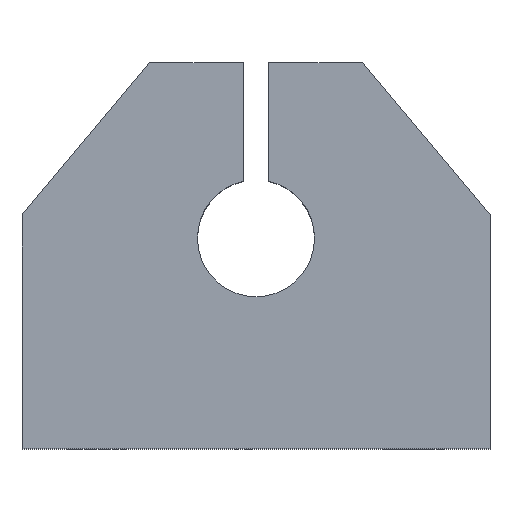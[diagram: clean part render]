
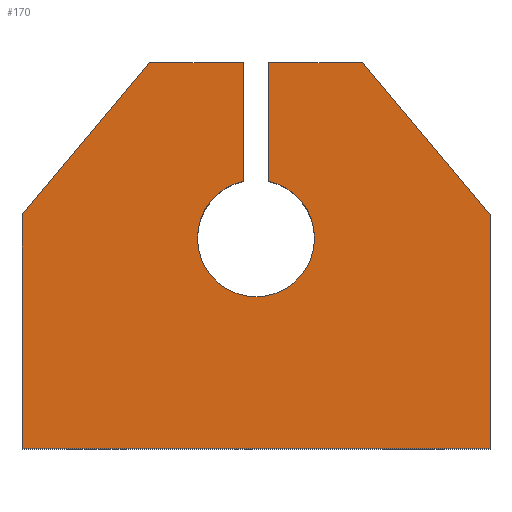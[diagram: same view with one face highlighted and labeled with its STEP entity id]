
A CAD part, top view. The second image highlights one B-rep face of the part: STEP entity #170.
In plain terms, the highlighted planar face has unit normal (0, 0, 1).
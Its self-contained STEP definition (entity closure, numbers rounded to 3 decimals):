
#7 = LINE ( 'NONE', #990, #773 ) ;
#24 = ORIENTED_EDGE ( 'NONE', *, *, #1234, .T. ) ;
#34 = VECTOR ( 'NONE', #64, 1000. ) ;
#38 = EDGE_CURVE ( 'NONE', #187, #108, #533, .T. ) ;
#49 = DIRECTION ( 'NONE',  ( 0., 0., 1. ) ) ;
#57 = DIRECTION ( 'NONE',  ( 0., 1., 0. ) ) ;
#64 = DIRECTION ( 'NONE',  ( 0., -1., 0. ) ) ;
#65 = CIRCLE ( 'NONE', #687, 5. ) ;
#73 = VERTEX_POINT ( 'NONE', #830 ) ;
#88 = ORIENTED_EDGE ( 'NONE', *, *, #805, .T. ) ;
#108 = VERTEX_POINT ( 'NONE', #343 ) ;
#111 = LINE ( 'NONE', #399, #706 ) ;
#147 = DIRECTION ( 'NONE',  ( -1., 0., 0. ) ) ;
#170 = ADVANCED_FACE ( 'NONE', ( #910 ), #1206, .T. ) ;
#187 = VERTEX_POINT ( 'NONE', #315 ) ;
#201 = VECTOR ( 'NONE', #390, 1000. ) ;
#213 = LINE ( 'NONE', #397, #1082 ) ;
#220 = ORIENTED_EDGE ( 'NONE', *, *, #860, .F. ) ;
#234 = EDGE_LOOP ( 'NONE', ( #24, #88, #707, #962, #220, #476, #740, #589, #377, #373, #1268, #334 ) ) ;
#255 = EDGE_CURVE ( 'NONE', #1122, #528, #671, .T. ) ;
#263 = VERTEX_POINT ( 'NONE', #1010 ) ;
#290 = LINE ( 'NONE', #1155, #201 ) ;
#301 = AXIS2_PLACEMENT_3D ( 'NONE', #1015, #1031, #1212 ) ;
#315 = CARTESIAN_POINT ( 'NONE',  ( 20., -16.5, 9. ) ) ;
#323 = CARTESIAN_POINT ( 'NONE',  ( 0., 1.5, 9. ) ) ;
#329 = VERTEX_POINT ( 'NONE', #503 ) ;
#334 = ORIENTED_EDGE ( 'NONE', *, *, #828, .T. ) ;
#342 = DIRECTION ( 'NONE',  ( 1., 0., 0. ) ) ;
#343 = CARTESIAN_POINT ( 'NONE',  ( 20., 3.5, 9. ) ) ;
#353 = DIRECTION ( 'NONE',  ( -1., 0., 0. ) ) ;
#373 = ORIENTED_EDGE ( 'NONE', *, *, #646, .T. ) ;
#377 = ORIENTED_EDGE ( 'NONE', *, *, #672, .T. ) ;
#390 = DIRECTION ( 'NONE',  ( 1., 0., 0. ) ) ;
#392 = CARTESIAN_POINT ( 'NONE',  ( 1.075, 16.5, 9. ) ) ;
#397 = CARTESIAN_POINT ( 'NONE',  ( -13.46, 11.294, 9. ) ) ;
#399 = CARTESIAN_POINT ( 'NONE',  ( 13.46, 11.294, 9. ) ) ;
#439 = EDGE_CURVE ( 'NONE', #1184, #329, #663, .T. ) ;
#459 = CARTESIAN_POINT ( 'NONE',  ( -1.075, 6.383, 9. ) ) ;
#476 = ORIENTED_EDGE ( 'NONE', *, *, #578, .F. ) ;
#491 = LINE ( 'NONE', #392, #1098 ) ;
#503 = CARTESIAN_POINT ( 'NONE',  ( -9.092, 16.5, 9. ) ) ;
#525 = DIRECTION ( 'NONE',  ( 0., 0., 1. ) ) ;
#528 = VERTEX_POINT ( 'NONE', #999 ) ;
#533 = LINE ( 'NONE', #1117, #1038 ) ;
#578 = EDGE_CURVE ( 'NONE', #1184, #580, #645, .T. ) ;
#580 = VERTEX_POINT ( 'NONE', #459 ) ;
#585 = DIRECTION ( 'NONE',  ( -0.643, -0.766, 0. ) ) ;
#589 = ORIENTED_EDGE ( 'NONE', *, *, #653, .T. ) ;
#610 = AXIS2_PLACEMENT_3D ( 'NONE', #625, #525, #911 ) ;
#617 = VERTEX_POINT ( 'NONE', #1070 ) ;
#620 = VERTEX_POINT ( 'NONE', #776 ) ;
#625 = CARTESIAN_POINT ( 'NONE',  ( 0., 1.5, 9. ) ) ;
#644 = CARTESIAN_POINT ( 'NONE',  ( -1.075, 16.5, 9. ) ) ;
#645 = LINE ( 'NONE', #954, #34 ) ;
#646 = EDGE_CURVE ( 'NONE', #617, #187, #290, .T. ) ;
#653 = EDGE_CURVE ( 'NONE', #329, #263, #213, .T. ) ;
#663 = LINE ( 'NONE', #1053, #705 ) ;
#671 = CIRCLE ( 'NONE', #610, 5. ) ;
#672 = EDGE_CURVE ( 'NONE', #263, #617, #7, .T. ) ;
#683 = DIRECTION ( 'NONE',  ( 0., -1., 0. ) ) ;
#687 = AXIS2_PLACEMENT_3D ( 'NONE', #942, #1133, #932 ) ;
#705 = VECTOR ( 'NONE', #353, 1000. ) ;
#706 = VECTOR ( 'NONE', #788, 1000. ) ;
#707 = ORIENTED_EDGE ( 'NONE', *, *, #966, .F. ) ;
#740 = ORIENTED_EDGE ( 'NONE', *, *, #439, .T. ) ;
#765 = CARTESIAN_POINT ( 'NONE',  ( 9.092, 16.5, 9. ) ) ;
#773 = VECTOR ( 'NONE', #896, 1000. ) ;
#775 = VECTOR ( 'NONE', #147, 1000. ) ;
#776 = CARTESIAN_POINT ( 'NONE',  ( 1.075, 6.383, 9. ) ) ;
#788 = DIRECTION ( 'NONE',  ( -0.643, 0.766, 0. ) ) ;
#805 = EDGE_CURVE ( 'NONE', #73, #620, #491, .T. ) ;
#828 = EDGE_CURVE ( 'NONE', #108, #981, #111, .T. ) ;
#830 = CARTESIAN_POINT ( 'NONE',  ( 1.075, 16.5, 9. ) ) ;
#860 = EDGE_CURVE ( 'NONE', #580, #1122, #1121, .T. ) ;
#873 = AXIS2_PLACEMENT_3D ( 'NONE', #323, #49, #342 ) ;
#892 = CARTESIAN_POINT ( 'NONE',  ( -5., 1.5, 9. ) ) ;
#896 = DIRECTION ( 'NONE',  ( 0., -1., 0. ) ) ;
#910 = FACE_OUTER_BOUND ( 'NONE', #234, .T. ) ;
#911 = DIRECTION ( 'NONE',  ( 1., 0., 0. ) ) ;
#932 = DIRECTION ( 'NONE',  ( 1., 0., 0. ) ) ;
#934 = LINE ( 'NONE', #1011, #775 ) ;
#942 = CARTESIAN_POINT ( 'NONE',  ( 0., 1.5, 9. ) ) ;
#954 = CARTESIAN_POINT ( 'NONE',  ( -1.075, 16.5, 9. ) ) ;
#962 = ORIENTED_EDGE ( 'NONE', *, *, #255, .F. ) ;
#966 = EDGE_CURVE ( 'NONE', #528, #620, #65, .T. ) ;
#981 = VERTEX_POINT ( 'NONE', #765 ) ;
#990 = CARTESIAN_POINT ( 'NONE',  ( -20., 16.5, 9. ) ) ;
#999 = CARTESIAN_POINT ( 'NONE',  ( 5., 1.5, 9. ) ) ;
#1010 = CARTESIAN_POINT ( 'NONE',  ( -20., 3.5, 9. ) ) ;
#1011 = CARTESIAN_POINT ( 'NONE',  ( -20., 16.5, 9. ) ) ;
#1015 = CARTESIAN_POINT ( 'NONE',  ( 0., 0., 9. ) ) ;
#1031 = DIRECTION ( 'NONE',  ( 0., 0., 1. ) ) ;
#1038 = VECTOR ( 'NONE', #57, 1000. ) ;
#1053 = CARTESIAN_POINT ( 'NONE',  ( -20., 16.5, 9. ) ) ;
#1070 = CARTESIAN_POINT ( 'NONE',  ( -20., -16.5, 9. ) ) ;
#1082 = VECTOR ( 'NONE', #585, 1000. ) ;
#1098 = VECTOR ( 'NONE', #683, 1000. ) ;
#1117 = CARTESIAN_POINT ( 'NONE',  ( 20., 16.5, 9. ) ) ;
#1121 = CIRCLE ( 'NONE', #873, 5. ) ;
#1122 = VERTEX_POINT ( 'NONE', #892 ) ;
#1133 = DIRECTION ( 'NONE',  ( 0., 0., 1. ) ) ;
#1155 = CARTESIAN_POINT ( 'NONE',  ( -20., -16.5, 9. ) ) ;
#1184 = VERTEX_POINT ( 'NONE', #644 ) ;
#1206 = PLANE ( 'NONE',  #301 ) ;
#1212 = DIRECTION ( 'NONE',  ( 1., 0., 0. ) ) ;
#1234 = EDGE_CURVE ( 'NONE', #981, #73, #934, .T. ) ;
#1268 = ORIENTED_EDGE ( 'NONE', *, *, #38, .T. ) ;
